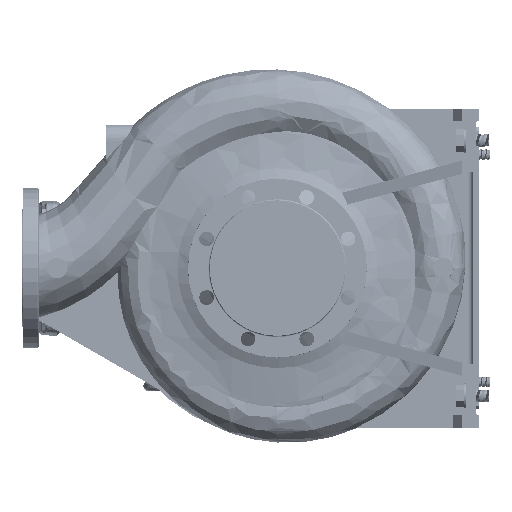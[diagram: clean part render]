
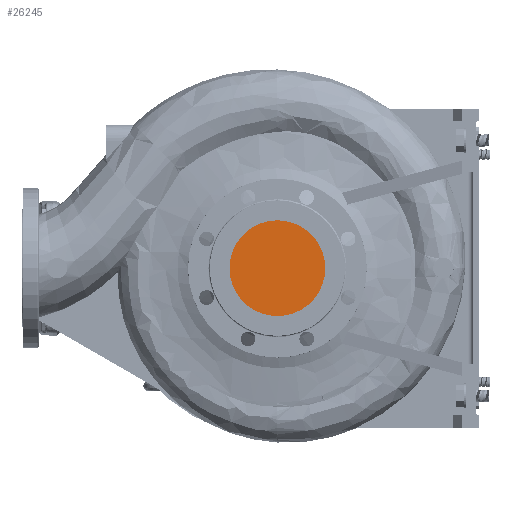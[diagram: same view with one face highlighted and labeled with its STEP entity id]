
A CAD part, left-side view. The second image highlights one B-rep face of the part: STEP entity #26245.
In plain terms, the highlighted planar face has unit normal (-1, 0, 0).
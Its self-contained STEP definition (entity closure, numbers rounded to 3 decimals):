
#7631 = ORIENTED_EDGE ( 'NONE', *, *, #66036, .T. ) ;
#26245 = ADVANCED_FACE ( 'NONE', ( #148565 ), #67202, .F. ) ;
#26348 = VERTEX_POINT ( 'NONE', #86557 ) ;
#36132 = AXIS2_PLACEMENT_3D ( 'NONE', #111119, #135065, #134211 ) ;
#37187 = VERTEX_POINT ( 'NONE', #61010 ) ;
#54811 = DIRECTION ( 'NONE',  ( 0., 0., -1. ) ) ;
#61010 = CARTESIAN_POINT ( 'NONE',  ( -135., -75., 0. ) ) ;
#66036 = EDGE_CURVE ( 'NONE', #37187, #26348, #78416, .T. ) ;
#67202 = PLANE ( 'NONE',  #161984 ) ;
#68072 = DIRECTION ( 'NONE',  ( 1., 0., 0. ) ) ;
#76573 = AXIS2_PLACEMENT_3D ( 'NONE', #121933, #136087, #98851 ) ;
#78416 = CIRCLE ( 'NONE', #36132, 75. ) ;
#86557 = CARTESIAN_POINT ( 'NONE',  ( -135., 75., 0. ) ) ;
#96715 = ORIENTED_EDGE ( 'NONE', *, *, #131111, .T. ) ;
#98851 = DIRECTION ( 'NONE',  ( 0., 0., 1. ) ) ;
#111119 = CARTESIAN_POINT ( 'NONE',  ( -135., 0., 0. ) ) ;
#121160 = CARTESIAN_POINT ( 'NONE',  ( -135., 0., 0. ) ) ;
#121933 = CARTESIAN_POINT ( 'NONE',  ( -135., 0., 0. ) ) ;
#130251 = CIRCLE ( 'NONE', #76573, 75. ) ;
#131111 = EDGE_CURVE ( 'NONE', #26348, #37187, #130251, .T. ) ;
#134211 = DIRECTION ( 'NONE',  ( 0., 0., 1. ) ) ;
#135065 = DIRECTION ( 'NONE',  ( -1., 0., 0. ) ) ;
#136087 = DIRECTION ( 'NONE',  ( -1., 0., 0. ) ) ;
#147907 = EDGE_LOOP ( 'NONE', ( #96715, #7631 ) ) ;
#148565 = FACE_OUTER_BOUND ( 'NONE', #147907, .T. ) ;
#161984 = AXIS2_PLACEMENT_3D ( 'NONE', #121160, #68072, #54811 ) ;
